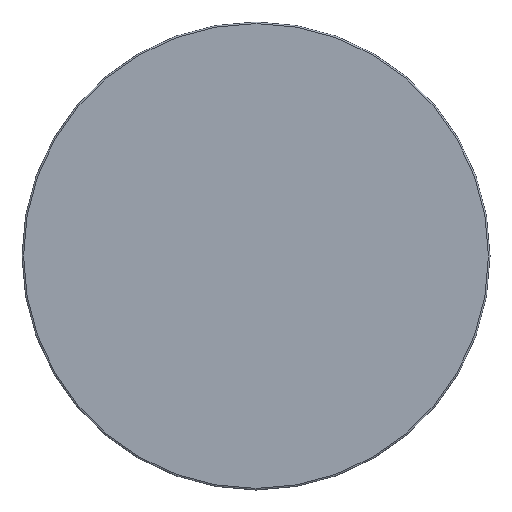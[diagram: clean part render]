
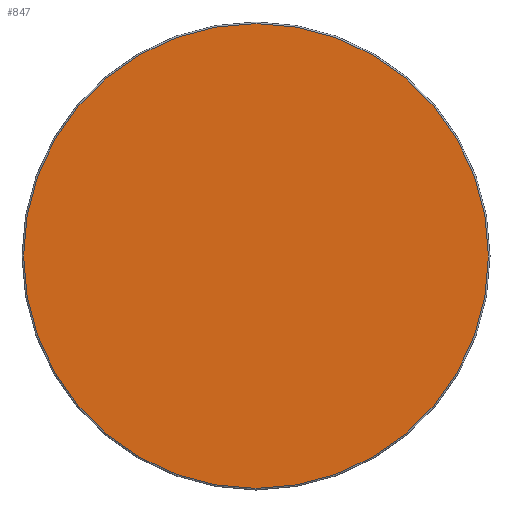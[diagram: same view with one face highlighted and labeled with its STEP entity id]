
A CAD part, left-side view. The second image highlights one B-rep face of the part: STEP entity #847.
In plain terms, the highlighted planar face has unit normal (-1, 0, 0).
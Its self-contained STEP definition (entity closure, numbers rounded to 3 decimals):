
#824=CARTESIAN_POINT('',(0.0,149.0,0.0));
#825=VERTEX_POINT('',#824);
#826=CARTESIAN_POINT('',(0.0,0.0,0.0));
#827=DIRECTION('',(1.0,0.0,0.0));
#828=DIRECTION('',(0.0,-1.0,0.0));
#829=AXIS2_PLACEMENT_3D('',#826,#827,#828);
#830=CIRCLE('',#829,149.0);
#831=EDGE_CURVE('',#825,#825,#830,.T.);
#839=CARTESIAN_POINT('',(0.0,132.819,0.));
#840=DIRECTION('',(-1.0,0.0,0.0));
#841=DIRECTION('',(0.0,0.0,1.0));
#842=AXIS2_PLACEMENT_3D('',#839,#840,#841);
#843=PLANE('',#842);
#844=ORIENTED_EDGE('',*,*,#831,.F.);
#845=EDGE_LOOP('',(#844));
#846=FACE_OUTER_BOUND('',#845,.T.);
#847=ADVANCED_FACE('',(#846),#843,.T.);
